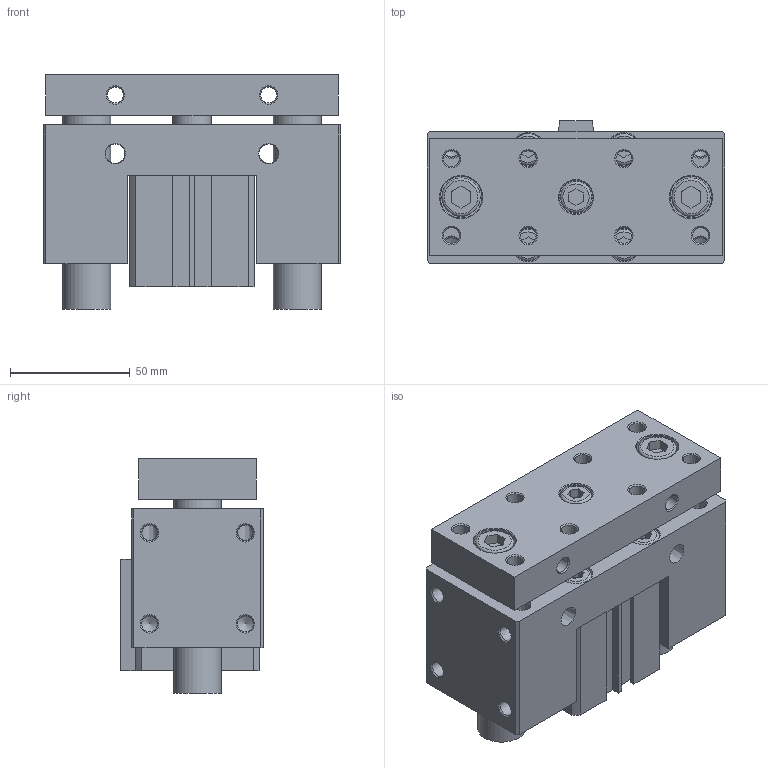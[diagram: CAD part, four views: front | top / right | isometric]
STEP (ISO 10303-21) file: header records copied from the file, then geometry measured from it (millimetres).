
FILE_DESCRIPTION((''),'2;1');
FILE_NAME('I:\3D電子目錄\氣缸\JCB\JCB\JCB40\JCB40x20.stp','2007-08-23T20:07:45',('Administrator'),(''),'Autodesk Inventor 11','Autodesk Inventor 11','');
FILE_SCHEMA(('AUTOMOTIVE_DESIGN { 1 0 10303 214 1 1 1 1 }'));
Length unit declared in the file: millimetre
Products named in the file (1): JCB40
Bounding box: 124 x 59.5 x 98 mm (x, y, z)
Volume: 471892.1 mm3; surface area: 108751.2 mm2
Topology: 3 solids, 3 shells, 303 faces, 731 edges, 473 vertices
Faces by surface type: plane 163, cylinder 52, cone 47, bspline 33, torus 8
Full cylindrical faces by diameter (mm): 2.2 x2, 6.647 x4, 6.8 x4, 10 x8, 13 x5, 14 x5, 16 x3, 17 x1, 17.5 x2, 20 x2, 23 x2, 28 x1, 29 x1, 42 x4, 44.5 x2
Entity records: 8528 total; most frequent: CARTESIAN_POINT 2090, DIRECTION 1302, ORIENTED_EDGE 1114, EDGE_CURVE 557, EDGE_LOOP 522, AXIS2_PLACEMENT_3D 480, VERTEX_POINT 435, VECTOR 342
